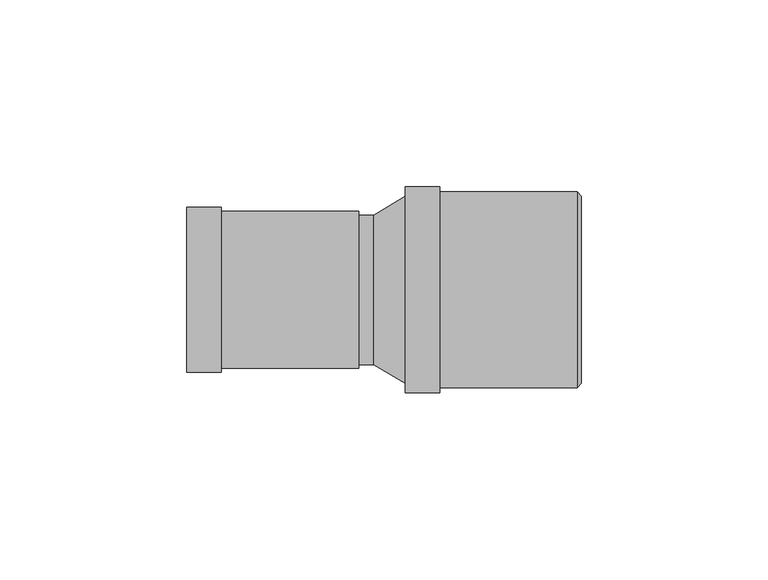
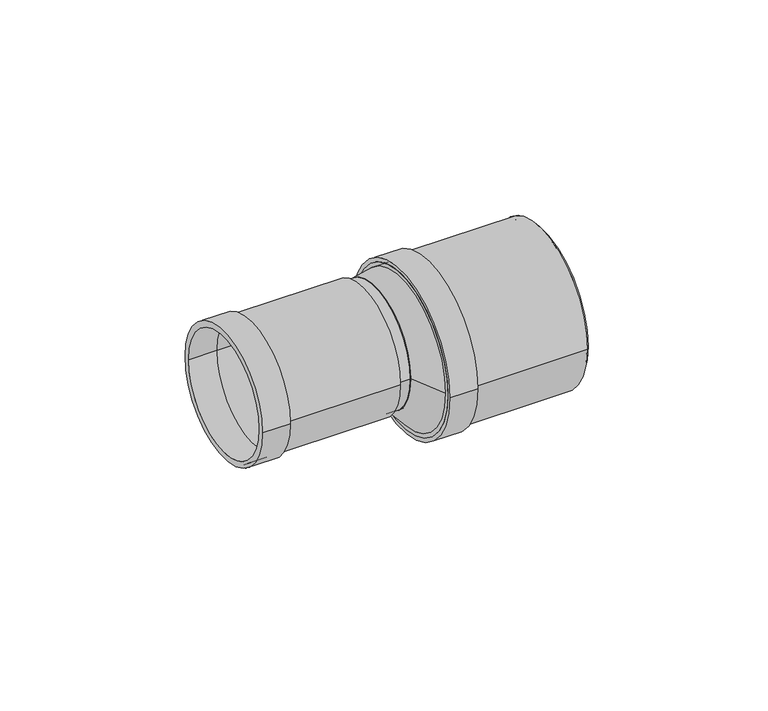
"""IFC4 building model written with IfcOpenShell, lengths in millimetres: pipe fitting geometry, Superdrain HTR-Reducer : Superdrain HTR-Reducer."""

from ifc_helpers import new_model, si_unit, point, frame, frame_2d, origin, origin_2d, place, context, project, spatial, polyline, circle_curve, trimmed, segment, composite_curve, outline, extrude, source, transform, mapped, element, save
from ifc_brep_helpers import plane_surface, revolved_surface, spline_surface, advanced_brep


def pipe_fitting_4569e667(model_context):
    return source(origin(), model_context, "Body", "SolidModel", [
        extrude(outline(composite_curve([segment(trimmed(circle_curve(origin_2d(), 26.25), [point((-26.25, 0.0))], [point((26.25, 0.0))], False, "CARTESIAN"), True, "CONTINUOUS"), segment(trimmed(circle_curve(origin_2d(), 26.25), [point((26.25, 0.0))], [point((-26.25, 0.0))], False, "CARTESIAN"), True, "CONTINUOUS")], self_intersect=False), holes=[composite_curve([segment(trimmed(circle_curve(origin_2d(), 25.0), [point((-25.0, 0.0))], [point((25.0, 0.0))], True, "CARTESIAN"), True, "CONTINUOUS"), segment(trimmed(circle_curve(origin_2d(), 25.0), [point((25.0, 0.0))], [point((-25.0, 0.0))], True, "CARTESIAN"), True, "CONTINUOUS")], self_intersect=False)]), frame((0.0, 0.0, 0.0), z_axis=(1.0, 0.0, 0.0), x_axis=(0.0, 1.0, 0.0)), (0.0, 0.0, 1.0), 46.0),
        extrude(outline(composite_curve([segment(trimmed(circle_curve(origin_2d(), 27.5625), [point((-27.5625, 0.0))], [point((27.5625, 0.0))], False, "CARTESIAN"), True, "CONTINUOUS"), segment(trimmed(circle_curve(origin_2d(), 27.5625), [point((27.5625, 0.0))], [point((-27.5625, 0.0))], False, "CARTESIAN"), True, "CONTINUOUS")], self_intersect=False), holes=[composite_curve([segment(trimmed(circle_curve(origin_2d(), 25.0), [point((-25.0, 0.0))], [point((25.0, 0.0))], True, "CARTESIAN"), True, "CONTINUOUS"), segment(trimmed(circle_curve(origin_2d(), 25.0), [point((25.0, 0.0))], [point((-25.0, 0.0))], True, "CARTESIAN"), True, "CONTINUOUS")], self_intersect=False)]), frame((0.0, 0.0, 0.0), z_axis=(1.0, 0.0, 0.0), x_axis=(0.0, 1.0, 0.0)), (0.0, 0.0, 1.0), 9.2),
        advanced_brep(
        [(47.0, -25.0, 0.0), (47.0, 25.0, 0.0), (46.0, -26.25, 0.0), (46.0, 26.25, 0.0)],
        [
            (0, 1, circle_curve(frame((47.0, 0.0, 0.0), z_axis=(1.0, 0.0, 0.0), x_axis=(0.0, -1.0, 0.0)), 25.0)),
            (1, 0, circle_curve(frame((47.0, 0.0, 0.0), z_axis=(1.0, 0.0, 0.0), x_axis=(0.0, 1.0, 0.0)), 25.0)),
            (2, 3, circle_curve(frame((46.0, 0.0, 0.0), z_axis=(-1.0, 0.0, 0.0), x_axis=(0.0, 1.0, 0.0)), 26.25)),
            (3, 2, circle_curve(frame((46.0, 0.0, 0.0), z_axis=(-1.0, 0.0, 0.0), x_axis=(0.0, -1.0, 0.0)), 26.25)),
            (3, 1),
            (0, 2),
        ],
        [
            plane_surface(frame((47.0, 0.0, 0.0), z_axis=(1.0, 0.0, 0.0), x_axis=(0.0, 0.0, -1.0))),
            plane_surface(frame((46.0, 0.0, 0.0), z_axis=(-1.0, 0.0, 0.0), x_axis=(0.0, 0.0, -1.0))),
            revolved_surface(polyline([(47.0, -25.0, 0.0), (46.0, -26.25, 0.0)]), (67.0, 0.0, 0.0), (-1.0, 0.0, 0.0)),
            revolved_surface(polyline([(47.0, 25.0, 0.0), (46.0, 26.25, 0.0)]), (67.0, 0.0, 0.0), (-1.0, 0.0, 0.0)),
        ],
        [
            (0, [[1, 2]]),
            (1, [[3, 4]]),
            (2, [[-4, 5, -1, 6]]),
            (3, [[-3, -6, -2, -5]]),
        ],
    ),
        advanced_brep(
        [(-8.5, 20.0, 5.0), (-8.5, -20.0, 5.0), (0.0, 25.0, 0.0), (0.0, -25.0, 0.0)],
        [
            (0, 1, circle_curve(frame((-8.5, 0.0, 5.0), z_axis=(-1.0, 0.0, 0.0), x_axis=(0.0, -1.0, 0.0)), 20.0)),
            (1, 0, circle_curve(frame((-8.5, 0.0, 5.0), z_axis=(-1.0, 0.0, 0.0), x_axis=(0.0, -1.0, 0.0)), 20.0)),
            (2, 3, circle_curve(frame((0.0, 0.0, 0.0), z_axis=(1.0, 0.0, 0.0), x_axis=(0.0, -1.0, 0.0)), 25.0)),
            (3, 2, circle_curve(frame((0.0, 0.0, 0.0), z_axis=(1.0, 0.0, 0.0), x_axis=(0.0, -1.0, 0.0)), 25.0)),
            (3, 1),
            (0, 2),
        ],
        [
            plane_surface(frame((-8.5, 0.0, 5.0), z_axis=(-1.0, 0.0, 0.0), x_axis=(0.0, 0.0, -1.0))),
            plane_surface(frame((0.0, 0.0, 0.0), z_axis=(1.0, 0.0, 0.0), x_axis=(0.0, 0.0, -1.0))),
            spline_surface(2, 1, [[(0.0, 25.0, 0.0), (-8.5, 20.0, 5.0)], [(0.0, 25.0, -25.0), (-8.5, 20.0, -15.0)], [(0.0, 0.0, -25.0), (-8.5, 0.0, -15.0)], [(0.0, -25.0, -25.0), (-8.5, -20.0, -15.0)], [(0.0, -25.0, 0.0), (-8.5, -20.0, 5.0)]], [3, 2, 3], [2, 2], [0.0, 1.0, 2.0], [0.0, 1.0], weights=[[1.0, 1.0], [0.7071067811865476, 0.7071067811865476], [1.0, 1.0], [0.7071067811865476, 0.7071067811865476], [1.0, 1.0]]),
            spline_surface(2, 1, [[(0.0, -25.0, 0.0), (-8.5, -20.0, 5.0)], [(0.0, -25.0, 25.0), (-8.5, -20.0, 25.0)], [(0.0, 0.0, 25.0), (-8.5, 0.0, 25.0)], [(0.0, 25.0, 25.0), (-8.5, 20.0, 25.0)], [(0.0, 25.0, 0.0), (-8.5, 20.0, 5.0)]], [3, 2, 3], [2, 2], [0.0, 1.0, 2.0], [0.0, 1.0], weights=[[1.0, 1.0], [0.7071067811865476, 0.7071067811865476], [1.0, 1.0], [0.7071067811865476, 0.7071067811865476], [1.0, 1.0]]),
        ],
        [
            (0, [[1, 2]]),
            (1, [[3, 4]]),
            (2, [[-4, 5, -1, 6]]),
            (3, [[-3, -6, -2, -5]]),
        ],
    ),
        extrude(outline(composite_curve([segment(trimmed(circle_curve(frame_2d((0.0, 5.0)), 20.0), [point((-20.0, 5.0))], [point((20.0, 5.0))], False, "CARTESIAN"), True, "CONTINUOUS"), segment(trimmed(circle_curve(frame_2d((0.0, 5.0)), 20.0), [point((20.0, 5.0))], [point((-20.0, 5.0))], False, "CARTESIAN"), True, "CONTINUOUS")], self_intersect=False)), frame((-12.5, 0.0, 0.0), z_axis=(1.0, 0.0, 0.0), x_axis=(0.0, 1.0, 0.0)), (0.0, 0.0, 1.0), 5.0),
        extrude(outline(composite_curve([segment(trimmed(circle_curve(frame_2d((0.0, 5.0)), 22.05), [point((-22.05, 5.0))], [point((22.05, 5.0))], False, "CARTESIAN"), True, "CONTINUOUS"), segment(trimmed(circle_curve(frame_2d((0.0, 5.0)), 22.05), [point((22.05, 5.0))], [point((-22.05, 5.0))], False, "CARTESIAN"), True, "CONTINUOUS")], self_intersect=False), holes=[composite_curve([segment(trimmed(circle_curve(frame_2d((0.0, 5.0)), 20.0), [point((20.0, 5.0))], [point((-20.0, 5.0))], True, "CARTESIAN"), True, "CONTINUOUS"), segment(trimmed(circle_curve(frame_2d((0.0, 5.0)), 20.0), [point((-20.0, 5.0))], [point((20.0, 5.0))], True, "CARTESIAN"), True, "CONTINUOUS")], self_intersect=False)]), frame((-58.5, 0.0, 0.0), z_axis=(1.0, 0.0, 0.0), x_axis=(0.0, 1.0, 0.0)), (0.0, 0.0, 1.0), 9.2),
        extrude(outline(composite_curve([segment(trimmed(circle_curve(frame_2d((0.0, 5.0)), 21.0), [point((-21.0, 5.0))], [point((21.0, 5.0))], False, "CARTESIAN"), True, "CONTINUOUS"), segment(trimmed(circle_curve(frame_2d((0.0, 5.0)), 21.0), [point((21.0, 5.0))], [point((-21.0, 5.0))], False, "CARTESIAN"), True, "CONTINUOUS")], self_intersect=False), holes=[composite_curve([segment(trimmed(circle_curve(frame_2d((0.0, 5.0)), 20.0), [point((20.0, 5.0))], [point((-20.0, 5.0))], True, "CARTESIAN"), True, "CONTINUOUS"), segment(trimmed(circle_curve(frame_2d((0.0, 5.0)), 20.0), [point((-20.0, 5.0))], [point((20.0, 5.0))], True, "CARTESIAN"), True, "CONTINUOUS")], self_intersect=False)]), frame((-58.5, 0.0, 0.0), z_axis=(1.0, 0.0, 0.0), x_axis=(0.0, 1.0, 0.0)), (0.0, 0.0, 1.0), 46.0),
        extrude(outline(composite_curve([segment(trimmed(circle_curve(origin_2d(), 25.0), [point((0.0, 25.0))], [point((0.0, -25.0))], False, "CARTESIAN"), True, "CONTINUOUS"), segment(trimmed(circle_curve(origin_2d(), 25.0), [point((0.0, -25.0))], [point((0.0, 25.0))], False, "CARTESIAN"), True, "CONTINUOUS")], self_intersect=False)), frame((0.0, 0.0, 0.0), z_axis=(1.0, 0.0, 0.0), x_axis=(0.0, 1.0, 0.0)), (0.0, 0.0, 1.0), 46.0),
    ])


if __name__ == "__main__":
    model = new_model("IFC4")
    model_context = context("Model", 3, world=origin())
    ifc_project = project(units=[si_unit("LENGTHUNIT", "METRE", prefix="MILLI")], contexts=[model_context])
    site = spatial("IfcSite", under=ifc_project)
    building = spatial("IfcBuilding", under=site)
    placement = place(None, origin())
    pipe_fitting_shape = pipe_fitting_4569e667(model_context)
    element("IfcPipeFitting", 1, ObjectType="Superdrain HTR-Reducer : Superdrain HTR-Reducer", at=placement, inside=building, context=model_context, shape_type="MappedRepresentation", body=[
        mapped(pipe_fitting_shape, transform((0.0, 0.0, 0.0), x_axis=(1.0, 0.0, 0.0), y_axis=(0.0, 1.0, 0.0), z_axis=(0.0, 0.0, 1.0))),
    ])
    save(model, "model.ifc")
